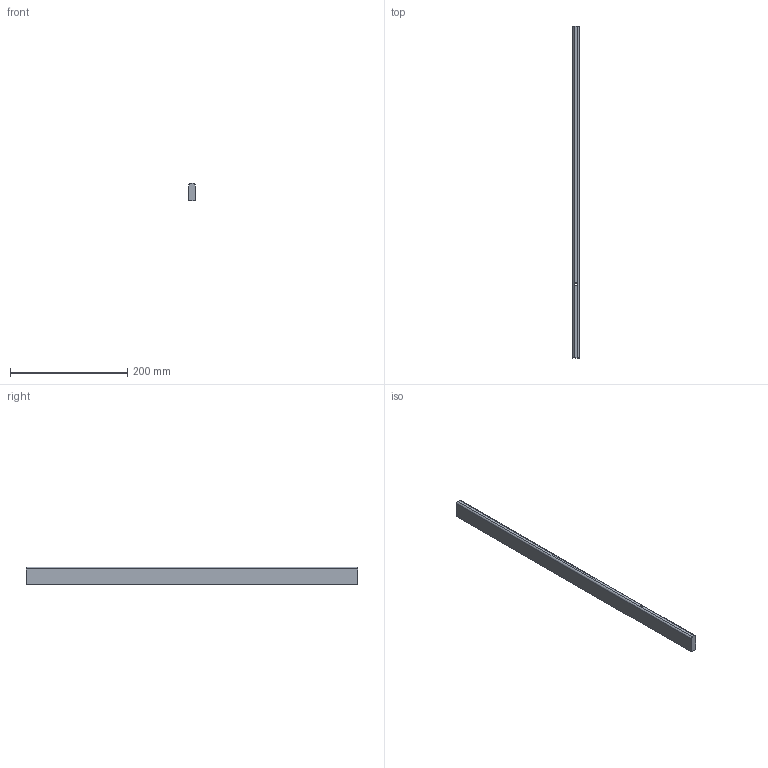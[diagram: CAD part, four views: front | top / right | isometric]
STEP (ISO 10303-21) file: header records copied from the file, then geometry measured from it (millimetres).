
FILE_DESCRIPTION (( 'STEP AP214' ), '1' );
FILE_NAME ('_Seitenreling_SP60702400_RL567,1.step', '2010-09-06T14:52:05', ( 'grass' ), ( '' ), 'SwSTEP 2.0', 'SolidWorks 2010', '' );
FILE_SCHEMA (( 'AUTOMOTIVE_DESIGN' ));
Length unit declared in the file: millimetre
Products named in the file (1): _Seitenreling_SP60702400_RL567,1
Bounding box: 10.5 x 567.1 x 30 mm (x, y, z)
Volume: 175526.9 mm3; surface area: 45635.4 mm2
Topology: 1 solids, 1 shells, 14 faces, 34 edges, 22 vertices
Faces by surface type: plane 8, cylinder 6
Entity records: 454 total; most frequent: DIRECTION 78, CARTESIAN_POINT 71, ORIENTED_EDGE 68, EDGE_CURVE 34, AXIS2_PLACEMENT_3D 29, VERTEX_POINT 22, VECTOR 20, LINE 20
